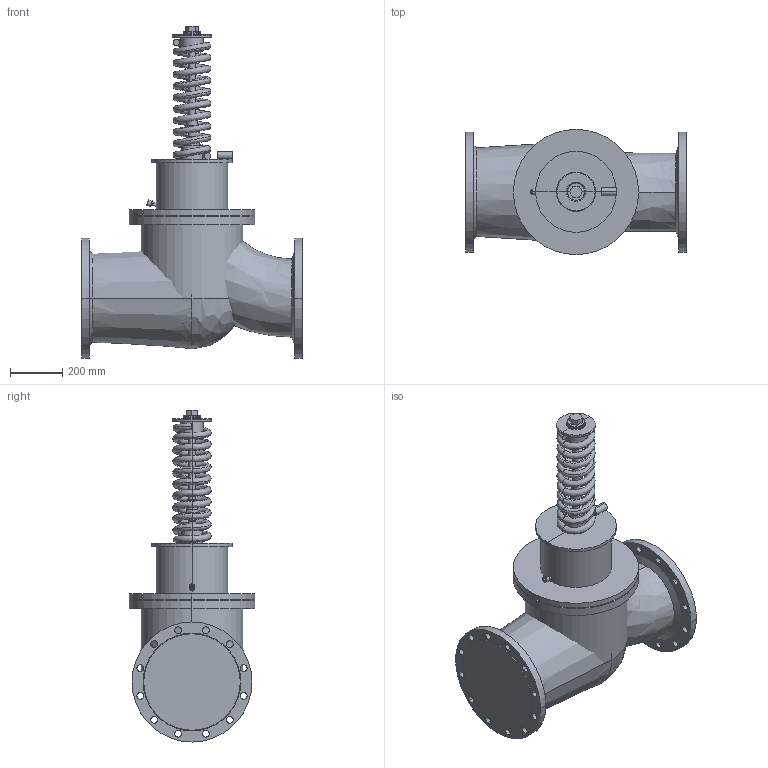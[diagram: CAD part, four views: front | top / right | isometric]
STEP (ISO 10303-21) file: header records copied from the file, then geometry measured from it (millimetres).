
FILE_DESCRIPTION(/* description */ (''),/* implementation_level */ '2;1');
FILE_NAME(/* name */ 'ETM_Регулятордавления_УРРД_НЗ_РД_DN300',/* time_stamp */ '2026-04-18T15:06:47+03:00',/* author */ (''),/* organization */ (''),/* preprocessor_version */ 'ST-DEVELOPER v20',/* originating_system */ '',/* authorisation */ '');
FILE_SCHEMA (('AP242_MANAGED_MODEL_BASED_3D_ENGINEERING_MIM_LF { 1 0 10303 442 1 1 4 }'));
Length unit declared in the file: millimetre
Products named in the file (13): TopLevelAssembly; Выдавливание; Переход; Выдавливание_
1; Переход_1; Переход_2; Переход_3; Объемная геометрия 
присоединена; Выдавливание_
2; Выдавливание_
3; Объемная геометрия 
присоединена_1; Выдавливание_
4; Красная
Assembly tree (12 placements, depth 2):
  TopLevelAssembly
    Выдавливание
    Переход
    Выдавливание_
1
    Переход_1
    Переход_2
    Переход_3
    Объемная геометрия 
присоединена
    Выдавливание_
2
    Выдавливание_
3
    Объемная геометрия 
присоединена_1
    Выдавливание_
4
    Красная
Bounding box: 850 x 480 x 1272.86 mm (x, y, z)
Volume: 159126689.7 mm3; surface area: 5106121.4 mm2
Topology: 20 solids, 20 shells, 316 faces, 654 edges, 368 vertices
Faces by surface type: cylinder 124, plane 91, bspline 91, cone 10
Entity records: 10381 total; most frequent: CARTESIAN_POINT 3087, DIRECTION 1560, ORIENTED_EDGE 1304, AXIS2_PLACEMENT_3D 666, EDGE_CURVE 652, CIRCLE 415, VERTEX_POINT 368, EDGE_LOOP 366
